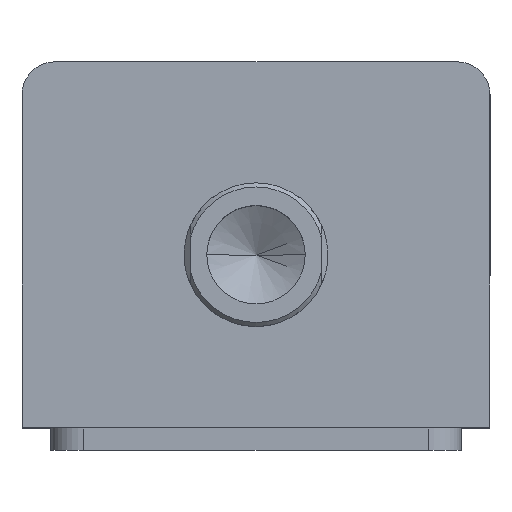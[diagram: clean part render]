
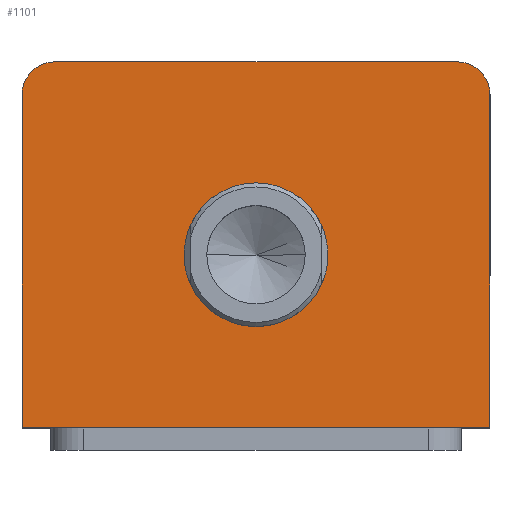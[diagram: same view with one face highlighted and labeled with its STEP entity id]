
A CAD part, top view. The second image highlights one B-rep face of the part: STEP entity #1101.
In plain terms, the highlighted planar face has unit normal (0, 0, 1).
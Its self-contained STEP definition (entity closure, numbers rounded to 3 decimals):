
#46 = EDGE_CURVE ( 'NONE', #1349, #1369, #1207, .T. ) ;
#50 = EDGE_CURVE ( 'NONE', #1369, #1349, #1203, .T. ) ;
#56 = EDGE_CURVE ( 'NONE', #1313, #1367, #1199, .T. ) ;
#507 = AXIS2_PLACEMENT_3D ( 'NONE', #752, #751, #750 ) ;
#523 = EDGE_CURVE ( 'NONE', #1243, #1213, #1016, .T. ) ;
#527 = EDGE_CURVE ( 'NONE', #1213, #1313, #1007, .T. ) ;
#542 = ORIENTED_EDGE ( 'NONE', *, *, #50, .F. ) ;
#543 = ORIENTED_EDGE ( 'NONE', *, *, #46, .F. ) ;
#544 = ORIENTED_EDGE ( 'NONE', *, *, #1828, .T. ) ;
#545 = ORIENTED_EDGE ( 'NONE', *, *, #523, .T. ) ;
#546 = ORIENTED_EDGE ( 'NONE', *, *, #527, .T. ) ;
#547 = ORIENTED_EDGE ( 'NONE', *, *, #56, .T. ) ;
#548 = ORIENTED_EDGE ( 'NONE', *, *, #3057, .T. ) ;
#549 = ORIENTED_EDGE ( 'NONE', *, *, #3065, .T. ) ;
#642 = DIRECTION ( 'NONE',  ( 1., 0., 0. ) ) ;
#649 = CARTESIAN_POINT ( 'NONE',  ( 0., -2.5, 132. ) ) ;
#662 = CARTESIAN_POINT ( 'NONE',  ( -57., -44.5, 132. ) ) ;
#711 = DIRECTION ( 'NONE',  ( 1., 0., 0. ) ) ;
#717 = DIRECTION ( 'NONE',  ( 0., 0., 1. ) ) ;
#741 = DIRECTION ( 'NONE',  ( 0., -1., 0. ) ) ;
#743 = CARTESIAN_POINT ( 'NONE',  ( -57., 44.5, 132. ) ) ;
#750 = DIRECTION ( 'NONE',  ( 1., 0., 0. ) ) ;
#751 = DIRECTION ( 'NONE',  ( 0., 0., 1. ) ) ;
#752 = CARTESIAN_POINT ( 'NONE',  ( -49., 36.5, 132. ) ) ;
#776 = DIRECTION ( 'NONE',  ( 0., 0., 1. ) ) ;
#839 = CARTESIAN_POINT ( 'NONE',  ( 0., -2.5, 132. ) ) ;
#887 = DIRECTION ( 'NONE',  ( 1., 0., 0. ) ) ;
#891 = FACE_OUTER_BOUND ( 'NONE', #1889, .T. ) ;
#895 = FACE_BOUND ( 'NONE', #1886, .T. ) ;
#960 = AXIS2_PLACEMENT_3D ( 'NONE', #649, #776, #642 ) ;
#965 = AXIS2_PLACEMENT_3D ( 'NONE', #839, #717, #711 ) ;
#1003 = VECTOR ( 'NONE', #741, 1000. ) ;
#1007 = LINE ( 'NONE', #743, #1003 ) ;
#1016 = CIRCLE ( 'NONE', #507, 8. ) ;
#1101 = ADVANCED_FACE ( 'NONE', ( #895, #891 ), #3153, .T. ) ;
#1192 = VECTOR ( 'NONE', #887, 1000. ) ;
#1199 = LINE ( 'NONE', #662, #1192 ) ;
#1203 = CIRCLE ( 'NONE', #960, 17.5 ) ;
#1207 = CIRCLE ( 'NONE', #965, 17.5 ) ;
#1213 = VERTEX_POINT ( 'NONE', #3230 ) ;
#1224 = VERTEX_POINT ( 'NONE', #3218 ) ;
#1243 = VERTEX_POINT ( 'NONE', #3195 ) ;
#1313 = VERTEX_POINT ( 'NONE', #3109 ) ;
#1330 = VERTEX_POINT ( 'NONE', #3089 ) ;
#1349 = VERTEX_POINT ( 'NONE', #2433 ) ;
#1367 = VERTEX_POINT ( 'NONE', #2378 ) ;
#1369 = VERTEX_POINT ( 'NONE', #2374 ) ;
#1828 = EDGE_CURVE ( 'NONE', #1330, #1243, #2662, .T. ) ;
#1886 = EDGE_LOOP ( 'NONE', ( #542, #543 ) ) ;
#1889 = EDGE_LOOP ( 'NONE', ( #544, #545, #546, #547, #548, #549 ) ) ;
#2036 = AXIS2_PLACEMENT_3D ( 'NONE', #3167, #3144, #3140 ) ;
#2109 = AXIS2_PLACEMENT_3D ( 'NONE', #2548, #2547, #2546 ) ;
#2374 = CARTESIAN_POINT ( 'NONE',  ( 17.5, -2.5, 132. ) ) ;
#2378 = CARTESIAN_POINT ( 'NONE',  ( 57., -44.5, 132. ) ) ;
#2433 = CARTESIAN_POINT ( 'NONE',  ( -17.5, -2.5, 132. ) ) ;
#2500 = DIRECTION ( 'NONE',  ( -1., 0., 0. ) ) ;
#2509 = CARTESIAN_POINT ( 'NONE',  ( -57., 44.5, 132. ) ) ;
#2546 = DIRECTION ( 'NONE',  ( 1., 0., 0. ) ) ;
#2547 = DIRECTION ( 'NONE',  ( 0., 0., 1. ) ) ;
#2548 = CARTESIAN_POINT ( 'NONE',  ( 49., 36.5, 132. ) ) ;
#2580 = DIRECTION ( 'NONE',  ( 0., 1., 0. ) ) ;
#2581 = CARTESIAN_POINT ( 'NONE',  ( 57., 44.5, 132. ) ) ;
#2662 = LINE ( 'NONE', #2509, #2665 ) ;
#2665 = VECTOR ( 'NONE', #2500, 1000. ) ;
#2698 = LINE ( 'NONE', #2581, #2701 ) ;
#2701 = VECTOR ( 'NONE', #2580, 1000. ) ;
#2704 = CIRCLE ( 'NONE', #2109, 8. ) ;
#3057 = EDGE_CURVE ( 'NONE', #1367, #1224, #2698, .T. ) ;
#3065 = EDGE_CURVE ( 'NONE', #1224, #1330, #2704, .T. ) ;
#3089 = CARTESIAN_POINT ( 'NONE',  ( 49., 44.5, 132. ) ) ;
#3109 = CARTESIAN_POINT ( 'NONE',  ( -57., -44.5, 132. ) ) ;
#3140 = DIRECTION ( 'NONE',  ( 1., 0., 0. ) ) ;
#3144 = DIRECTION ( 'NONE',  ( 0., 0., 1. ) ) ;
#3153 = PLANE ( 'NONE',  #2036 ) ;
#3167 = CARTESIAN_POINT ( 'NONE',  ( 0., 0., 132. ) ) ;
#3195 = CARTESIAN_POINT ( 'NONE',  ( -49., 44.5, 132. ) ) ;
#3218 = CARTESIAN_POINT ( 'NONE',  ( 57., 36.5, 132. ) ) ;
#3230 = CARTESIAN_POINT ( 'NONE',  ( -57., 36.5, 132. ) ) ;
